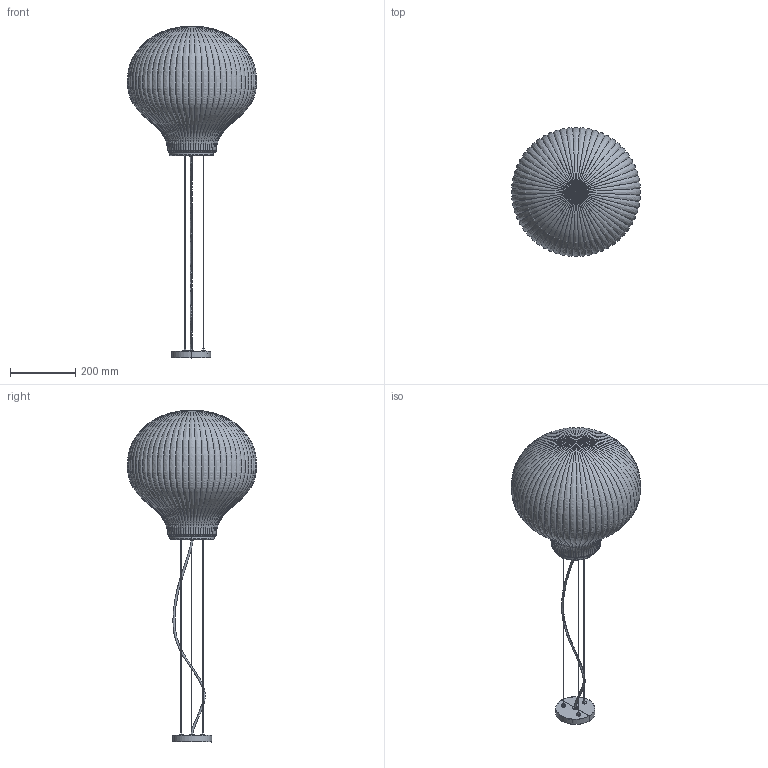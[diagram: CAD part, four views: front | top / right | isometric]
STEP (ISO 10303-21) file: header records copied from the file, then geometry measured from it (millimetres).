
FILE_DESCRIPTION(/* description */ (''),/* implementation_level */ '2;1');
FILE_NAME(/* name */ '28301.step',/* time_stamp */ '2024-06-13T11:25:56+02:00',/* author */ ('RenataManzini'),/* organization */ (''),/* preprocessor_version */ 'ST-DEVELOPER v20',/* originating_system */ 'AutoCAD Mechanical',/* authorisation */ '');
FILE_SCHEMA (('AUTOMOTIVE_DESIGN { 1 0 10303 214 3 1 1 }'));
Products named in the file (3): Product; soporte_isabelle - Lamp Holder-703298-_3D_; ISABELLE_400_dwg-708039-_3D_
Assembly tree (2 placements, depth 2):
  Product
    soporte_isabelle - Lamp Holder-703298-_3D_
    ISABELLE_400_dwg-708039-_3D_
Bounding box: 397.61 x 397.61 x 1020.15 mm (x, y, z)
Volume: 216704 mm3; surface area: 1080802 mm2
Topology: 9 solids, 10 shells, 415 faces, 1081 edges, 524 vertices
Faces by surface type: bspline 252, cylinder 103, plane 54, torus 6
Entity records: 51692 total; most frequent: CARTESIAN_POINT 44085, ORIENTED_EDGE 1806, DIRECTION 970, EDGE_CURVE 961, B_SPLINE_CURVE_WITH_KNOTS 557, VERTEX_POINT 524, EDGE_LOOP 454, FACE_OUTER_BOUND 415
